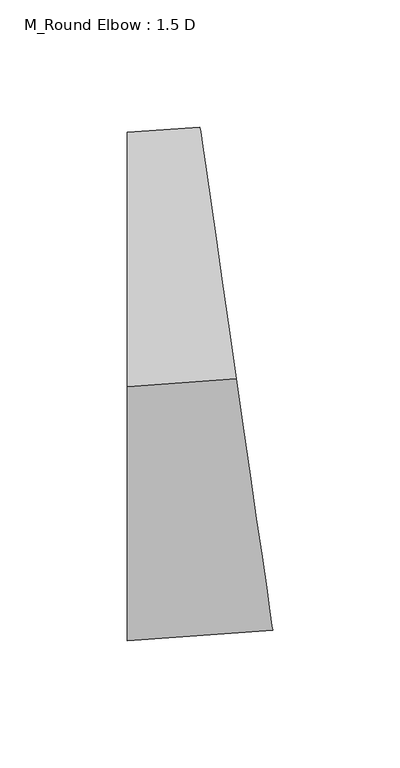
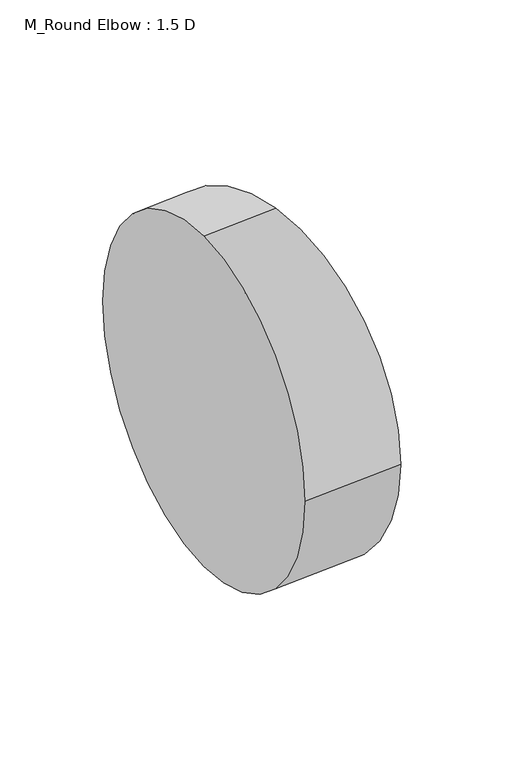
"""IFC4 building model written with IfcOpenShell, lengths in millimetres: duct fitting geometry, M_Round Elbow : 1.5 D."""

import ifcopenshell
import ifcopenshell.guid

model = None  # the IFC model being written
_history = None  # IfcOwnerHistory: only IFC2X3 demands one
_inside = {}  # id of a spatial element -> (the spatial element, [elements in it])
_under = {}  # id of a project, library or spatial element -> (it, [spatial elements below it])
_declared = {}  # id of a project -> (the project, [libraries it declares])
_typed = {}  # id of a type object -> (the type object, [elements of that type])
_made_of = {}  # id of a material, layer set ... -> (it, [elements and type objects made of it])


def new_model(schema):
    """Start an empty IFC model of exactly this schema.

    Asked for "IFC4X3", IfcOpenShell would pick the latest addendum, in which some entities
    have other attributes; the version numbers below select the first issue.
    IFC2X3 requires an IfcOwnerHistory on every rooted entity: one is made here for all.
    """
    global model, _history
    if schema == "IFC4X3":
        model = ifcopenshell.file(schema_version=(4, 3, 0, 0))
    else:
        model = ifcopenshell.file(schema=schema)
    _inside.clear()
    _under.clear()
    _declared.clear()
    _typed.clear()
    _made_of.clear()
    _history = None
    if model.schema == "IFC2X3":
        org = make("IfcOrganization", Name="unknown")
        user = make(
            "IfcPersonAndOrganization",
            ThePerson=make("IfcPerson", FamilyName="unknown"),
            TheOrganization=org,
        )
        app = make(
            "IfcApplication",
            ApplicationDeveloper=org,
            Version="unknown",
            ApplicationFullName="unknown",
            ApplicationIdentifier="unknown",
        )
        _history = make(
            "IfcOwnerHistory",
            OwningUser=user,
            OwningApplication=app,
            ChangeAction="ADDED",
            CreationDate=0,
        )
    return model


def make(cls, **values):
    """One entity of the class cls with the attributes given. An attribute that is None is left unset."""
    return model.create_entity(
        cls, **{name: value for name, value in values.items() if value is not None}
    )


def rooted(cls, **values):
    """An entity with a GlobalId (a new one), such as an element, a storey or a relation."""
    return make(cls, GlobalId=ifcopenshell.guid.new(), OwnerHistory=_history, **values)


def si_unit(unit_type, name, prefix=None):
    """IfcSIUnit, for example si_unit("LENGTHUNIT", "METRE", prefix="MILLI")."""
    return make("IfcSIUnit", UnitType=unit_type, Prefix=prefix, Name=name)


def assignment(units):
    """IfcUnitAssignment: the units of a project."""
    return None if units is None else make("IfcUnitAssignment", Units=units)


def point(xyz):
    """IfcCartesianPoint."""
    return None if xyz is None else make("IfcCartesianPoint", Coordinates=xyz)


def direction(xyz):
    """IfcDirection."""
    return None if xyz is None else make("IfcDirection", DirectionRatios=xyz)


def frame(location, z_axis=None, x_axis=None):
    """IfcAxis2Placement3D, a coordinate frame: its origin and axes. An axis left out is left unset."""
    return make(
        "IfcAxis2Placement3D",
        Location=point(location),
        Axis=direction(z_axis),
        RefDirection=direction(x_axis),
    )


def origin():
    """The frame at (0, 0, 0) with its axes left unset."""
    return frame((0.0, 0.0, 0.0))


def place(relative_to, where):
    """IfcLocalPlacement: puts the frame where relative to a parent placement (None: the world)."""
    return make(
        "IfcLocalPlacement", PlacementRelTo=relative_to, RelativePlacement=where
    )


def context(
    kind, dimensions, precision=None, world=None, true_north=None, identifier=None
):
    """IfcGeometricRepresentationContext, for example the 3D "Model" context."""
    return make(
        "IfcGeometricRepresentationContext",
        ContextIdentifier=identifier,
        ContextType=kind,
        CoordinateSpaceDimension=dimensions,
        Precision=precision,
        WorldCoordinateSystem=world,
        TrueNorth=true_north,
    )


def project(units=None, contexts=None):
    """IfcProject with its units and contexts."""
    return rooted(
        "IfcProject",
        Name="project",
        RepresentationContexts=contexts,
        UnitsInContext=assignment(units),
    )


def spatial(cls, under=None, at=None, **own):
    """A site, building, storey or space (cls), placed at a placement, below another one or the project."""
    s = rooted(cls, ObjectPlacement=at, **own)
    if under is not None:
        _under.setdefault(under.id(), (under, []))[1].append(s)
    return s


def circle_curve(where, radius):
    """IfcCircle in the frame where."""
    return make("IfcCircle", Position=where, Radius=radius)


def ellipse_curve(where, semi_axis1, semi_axis2):
    """IfcEllipse in the frame where."""
    return make(
        "IfcEllipse", Position=where, SemiAxis1=semi_axis1, SemiAxis2=semi_axis2
    )


def trimmed(basis, trim1, trim2, sense, master):
    """IfcTrimmedCurve: the piece of a basis curve between two trims."""
    return make(
        "IfcTrimmedCurve",
        BasisCurve=basis,
        Trim1=trim1,
        Trim2=trim2,
        SenseAgreement=sense,
        MasterRepresentation=master,
    )


def shape(context_of_items, identifier, shape_type, items):
    """IfcShapeRepresentation: the items that make up one representation, for example the "Body"."""
    return make(
        "IfcShapeRepresentation",
        ContextOfItems=context_of_items,
        RepresentationIdentifier=identifier,
        RepresentationType=shape_type,
        Items=items,
    )


def source(mapping_origin, context_of_items, identifier, shape_type, items):
    """IfcRepresentationMap: a shape defined once, which mapped items show again and again."""
    return make(
        "IfcRepresentationMap",
        MappingOrigin=mapping_origin,
        MappedRepresentation=shape(context_of_items, identifier, shape_type, items),
    )


def transform(
    local_origin,
    x_axis=None,
    y_axis=None,
    z_axis=None,
    scale=None,
    scale2=None,
    scale3=None,
    uniform=True,
):
    """IfcCartesianTransformationOperator3D, or its non-uniform kind. x_axis, y_axis, z_axis: its Axis1, 2, 3."""
    if uniform:
        return make(
            "IfcCartesianTransformationOperator3D",
            Axis1=direction(x_axis),
            Axis2=direction(y_axis),
            LocalOrigin=point(local_origin),
            Scale=scale,
            Axis3=direction(z_axis),
        )
    return make(
        "IfcCartesianTransformationOperator3DnonUniform",
        Axis1=direction(x_axis),
        Axis2=direction(y_axis),
        LocalOrigin=point(local_origin),
        Scale=scale,
        Axis3=direction(z_axis),
        Scale2=scale2,
        Scale3=scale3,
    )


def mapped(mapping_source, mapping_target):
    """IfcMappedItem: shows the shape of a source again, moved by a transform."""
    return make(
        "IfcMappedItem", MappingSource=mapping_source, MappingTarget=mapping_target
    )


def made_of(thing, what):
    """Note that an element or type object is made of a material, layer set ...; save() writes the relation."""
    if what is not None:
        _made_of.setdefault(what.id(), (what, []))[1].append(thing)
    return thing


def element(
    cls,
    number,
    at=None,
    inside=None,
    cuts=None,
    type_object=None,
    material=None,
    context=None,
    identifier="Body",
    shape_type=None,
    held_by="IfcProductDefinitionShape",
    body=None,
    shapes=None,
    **own,
):
    """One element of the class cls, such as IfcWall. Its Tag is "e" and its number.

    at: its placement. inside: the storey or other place that contains it. cuts: it is an
    opening in that element (IfcRelVoidsElement). A single representation is given by context,
    identifier, shape_type and body (its items); several are given by shapes. held_by: the class
    of the entity that holds the representations. save() writes the other relations.
    """
    e = rooted(cls, Tag="e%d" % number, ObjectPlacement=at, **own)
    if body is not None:
        shapes = [shape(context, identifier, shape_type, body)]
    if shapes is not None:
        e.Representation = make(held_by, Representations=shapes)
    if inside is not None:
        _inside.setdefault(inside.id(), (inside, []))[1].append(e)
    if cuts is not None:
        rooted(
            "IfcRelVoidsElement", RelatingBuildingElement=cuts, RelatedOpeningElement=e
        )
    if type_object is not None:
        _typed.setdefault(type_object.id(), (type_object, []))[1].append(e)
    return made_of(e, material)


def aggregate(whole, parts):
    """IfcRelAggregates: a whole, such as a stair, and the parts it consists of."""
    return rooted("IfcRelAggregates", RelatingObject=whole, RelatedObjects=parts)


def save(model, path):
    """Write the relations noted so far, then the file.

    IfcRelAggregates (storeys below a building ...), IfcRelContainedInSpatialStructure (elements
    in a storey), IfcRelDefinesByType, IfcRelAssociatesMaterial and IfcRelDeclares: one each for
    every whole, place, type object, material and project.
    """
    for whole, parts in _under.values():
        aggregate(whole, parts)
    for where, things in _inside.values():
        rooted(
            "IfcRelContainedInSpatialStructure",
            RelatedElements=things,
            RelatingStructure=where,
        )
    for kind, things in _typed.values():
        rooted("IfcRelDefinesByType", RelatedObjects=things, RelatingType=kind)
    for what, things in _made_of.values():
        rooted("IfcRelAssociatesMaterial", RelatedObjects=things, RelatingMaterial=what)
    for by, libraries in _declared.values():
        rooted("IfcRelDeclares", RelatingContext=by, RelatedDefinitions=libraries)
    model.write(path)


def plane_surface(at):
    """IfcPlane: the flat surface through the origin of the frame at, square to its z axis."""
    return make("IfcPlane", Position=at)


def revolved_surface(curve, axis_point, axis_direction):
    """IfcSurfaceOfRevolution: the curve turned about the line through axis_point along axis_direction."""
    return make(
        "IfcSurfaceOfRevolution",
        SweptCurve=make("IfcArbitraryOpenProfileDef", ProfileType="CURVE", Curve=curve),
        AxisPosition=make("IfcAxis1Placement", Location=point(axis_point), Axis=direction(axis_direction)),
    )


def advanced_brep(points, edges, surfaces, faces):
    """IfcAdvancedBrep: a solid bounded by faces that lie on surfaces and meet in shared edges.

    An edge is (start, end): straight between two places in points (the first is 0);
    or (start, end, curve); or (start, end, curve, False) where it runs against its curve.
    A face is (place in surfaces, loops), or (place, loops, False) where it looks against
    its surface's normal. A loop lists edges by number (the first is 1), with a minus sign
    where the edge is run from its end to its start. The first loop is the outer one.
    """
    corners = [point(p) for p in points]
    vertices = [make("IfcVertexPoint", VertexGeometry=c) for c in corners]
    made = []
    for start, end, *more in edges:
        made.append(
            make(
                "IfcEdgeCurve",
                EdgeStart=vertices[start],
                EdgeEnd=vertices[end],
                EdgeGeometry=more[0] if more else make("IfcPolyline", Points=[corners[start], corners[end]]),
                SameSense=more[1] if len(more) > 1 else True,
            )
        )
    hull = []
    for where, loops, *sense in faces:
        bounds = []
        for j, loop in enumerate(loops):
            ring = [make("IfcOrientedEdge", EdgeElement=made[abs(k) - 1], Orientation=k > 0) for k in loop]
            bounds.append(
                make(
                    "IfcFaceOuterBound" if j == 0 else "IfcFaceBound",
                    Bound=make("IfcEdgeLoop", EdgeList=ring),
                    Orientation=True,
                )
            )
        hull.append(make("IfcAdvancedFace", Bounds=bounds, FaceSurface=surfaces[where], SameSense=sense[0] if sense else True))
    return make("IfcAdvancedBrep", Outer=make("IfcClosedShell", CfsFaces=hull))


def m_round_elbow_1_5_d_c1d831fc(model_context):
    return source(origin(), model_context, "Body", "AdvancedBrep", [
        advanced_brep(
        [(-21.581663, 0.0, 100.0), (-21.581663, 100.0, 0.0), (-21.581663, 0.0, -100.0), (-21.581663, -100.0, 0.0), (21.3594342, 3.0891343, 100.0), (35.6731332, -95.8811543, 0.0), (21.3594342, 3.0891343, -100.0), (7.0457351, 102.0594229, 0.0)],
        [
            (0, 1, circle_curve(frame((-21.581663, 0.0, 0.0), z_axis=(-1.0, 0.0, 0.0), x_axis=(0.0, 1.0, 0.0)), 100.0)),
            (1, 2, circle_curve(frame((-21.581663, 0.0, 0.0), z_axis=(-1.0, 0.0, 0.0), x_axis=(0.0, 1.0, 0.0)), 100.0)),
            (2, 3, circle_curve(frame((-21.581663, 0.0, 0.0), z_axis=(-1.0, 0.0, 0.0), x_axis=(0.0, 1.0, 0.0)), 100.0)),
            (3, 0, circle_curve(frame((-21.581663, 0.0, 0.0), z_axis=(-1.0, 0.0, 0.0), x_axis=(0.0, 1.0, 0.0)), 100.0)),
            (4, 5, circle_curve(frame((21.3594342, 3.0891343, 0.0), z_axis=(0.9897028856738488, 0.14313699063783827, 0.0), x_axis=(-0.14313699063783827, 0.9897028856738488, 0.0)), 100.0)),
            (5, 6, circle_curve(frame((21.3594342, 3.0891343, 0.0), z_axis=(0.9897028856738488, 0.14313699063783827, 0.0), x_axis=(-0.14313699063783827, 0.9897028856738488, 0.0)), 100.0)),
            (6, 7, circle_curve(frame((21.3594342, 3.0891343, 0.0), z_axis=(0.9897028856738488, 0.14313699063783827, 0.0), x_axis=(-0.14313699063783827, 0.9897028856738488, 0.0)), 100.0)),
            (7, 4, circle_curve(frame((21.3594342, 3.0891343, 0.0), z_axis=(0.9897028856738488, 0.14313699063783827, 0.0), x_axis=(-0.14313699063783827, 0.9897028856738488, 0.0)), 100.0)),
            (7, 1, circle_curve(frame((-21.581663, 300.0, 0.0), z_axis=(0.0, 0.0, -1.0), x_axis=(0.0, -1.0, 0.0)), 200.0)),
            (0, 4, circle_curve(frame((-21.581663, 300.0, 100.0), z_axis=(0.0, 0.0, 1.0), x_axis=(0.0, -1.0, 0.0)), 300.0)),
            (6, 2, circle_curve(frame((-21.581663, 300.0, -100.0), z_axis=(0.0, 0.0, -1.0), x_axis=(0.0, -1.0, 0.0)), 300.0)),
            (5, 3, circle_curve(frame((-21.581663, 300.0, 0.0), z_axis=(0.0, 0.0, -1.0), x_axis=(0.0, -1.0, 0.0)), 400.0)),
        ],
        [
            plane_surface(frame((-21.581663, 0.0, 0.0), z_axis=(-1.0, 0.0, 0.0), x_axis=(0.0, 0.0, 1.0))),
            plane_surface(frame((21.3594342, 3.0891343, 0.0), z_axis=(0.9897028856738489, 0.1431369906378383, 0.0), x_axis=(0.0, 0.0, 1.0))),
            revolved_surface(trimmed(ellipse_curve(frame((-21.581663, 0.0, 0.0), z_axis=(-1.0, 0.0, 0.0), x_axis=(0.0, 1.0, 0.0)), 100.0, 100.0), [point((-21.581663, 0.0, 100.0))], [point((-21.581663, 100.0, 0.0))], True, "CARTESIAN"), (-21.581663, 300.0, 0.0), (0.0, 0.0, 1.0)),
            revolved_surface(trimmed(ellipse_curve(frame((-21.581663, 0.0, 0.0), z_axis=(-1.0, 0.0, 0.0), x_axis=(0.0, 1.0, 0.0)), 100.0, 100.0), [point((-21.581663, 100.0, 0.0))], [point((-21.581663, 0.0, -100.0))], True, "CARTESIAN"), (-21.581663, 300.0, 0.0), (0.0, 0.0, 1.0)),
            revolved_surface(trimmed(ellipse_curve(frame((-21.581663, 0.0, 0.0), z_axis=(-1.0, 0.0, 0.0), x_axis=(0.0, 1.0, 0.0)), 100.0, 100.0), [point((-21.581663, 0.0, -100.0))], [point((-21.581663, -100.0, 0.0))], True, "CARTESIAN"), (-21.581663, 300.0, 0.0), (0.0, 0.0, 1.0)),
            revolved_surface(trimmed(ellipse_curve(frame((-21.581663, 0.0, 0.0), z_axis=(-1.0, 0.0, 0.0), x_axis=(0.0, 1.0, 0.0)), 100.0, 100.0), [point((-21.581663, -100.0, 0.0))], [point((-21.581663, 0.0, 100.0))], True, "CARTESIAN"), (-21.581663, 300.0, 0.0), (0.0, 0.0, 1.0)),
        ],
        [
            (0, [[1, 2, 3, 4]]),
            (1, [[5, 6, 7, 8]]),
            (2, [[9, -1, 10, -8]]),
            (3, [[11, -2, -9, -7]]),
            (4, [[12, -3, -11, -6]]),
            (5, [[-10, -4, -12, -5]]),
        ],
    ),
        advanced_brep(
        [(-21.581663, 0.0, 100.0), (-21.581663, 100.0, 0.0), (-21.581663, 0.0, -100.0), (-21.581663, -100.0, 0.0), (21.3594342, 3.0891343, 100.0), (35.6731332, -95.8811543, 0.0), (21.3594342, 3.0891343, -100.0), (7.0457351, 102.0594229, 0.0)],
        [
            (0, 1, circle_curve(frame((-21.581663, 0.0, 0.0), z_axis=(-1.0, 0.0, 0.0), x_axis=(0.0, 1.0, 0.0)), 100.0)),
            (1, 2, circle_curve(frame((-21.581663, 0.0, 0.0), z_axis=(-1.0, 0.0, 0.0), x_axis=(0.0, 1.0, 0.0)), 100.0)),
            (2, 3, circle_curve(frame((-21.581663, 0.0, 0.0), z_axis=(-1.0, 0.0, 0.0), x_axis=(0.0, 1.0, 0.0)), 100.0)),
            (3, 0, circle_curve(frame((-21.581663, 0.0, 0.0), z_axis=(-1.0, 0.0, 0.0), x_axis=(0.0, 1.0, 0.0)), 100.0)),
            (4, 5, circle_curve(frame((21.3594342, 3.0891343, 0.0), z_axis=(0.9897028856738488, 0.14313699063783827, 0.0), x_axis=(-0.14313699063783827, 0.9897028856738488, 0.0)), 100.0)),
            (5, 6, circle_curve(frame((21.3594342, 3.0891343, 0.0), z_axis=(0.9897028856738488, 0.14313699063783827, 0.0), x_axis=(-0.14313699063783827, 0.9897028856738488, 0.0)), 100.0)),
            (6, 7, circle_curve(frame((21.3594342, 3.0891343, 0.0), z_axis=(0.9897028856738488, 0.14313699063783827, 0.0), x_axis=(-0.14313699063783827, 0.9897028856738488, 0.0)), 100.0)),
            (7, 4, circle_curve(frame((21.3594342, 3.0891343, 0.0), z_axis=(0.9897028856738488, 0.14313699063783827, 0.0), x_axis=(-0.14313699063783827, 0.9897028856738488, 0.0)), 100.0)),
            (7, 1, circle_curve(frame((-21.581663, 300.0, 0.0), z_axis=(0.0, 0.0, -1.0), x_axis=(0.0, -1.0, 0.0)), 200.0)),
            (0, 4, circle_curve(frame((-21.581663, 300.0, 100.0), z_axis=(0.0, 0.0, 1.0), x_axis=(0.0, -1.0, 0.0)), 300.0)),
            (6, 2, circle_curve(frame((-21.581663, 300.0, -100.0), z_axis=(0.0, 0.0, -1.0), x_axis=(0.0, -1.0, 0.0)), 300.0)),
            (5, 3, circle_curve(frame((-21.581663, 300.0, 0.0), z_axis=(0.0, 0.0, -1.0), x_axis=(0.0, -1.0, 0.0)), 400.0)),
        ],
        [
            plane_surface(frame((-21.581663, 0.0, 0.0), z_axis=(-1.0, 0.0, 0.0), x_axis=(0.0, 0.0, 1.0))),
            plane_surface(frame((21.3594342, 3.0891343, 0.0), z_axis=(0.9897028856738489, 0.1431369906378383, 0.0), x_axis=(0.0, 0.0, 1.0))),
            revolved_surface(trimmed(ellipse_curve(frame((-21.581663, 0.0, 0.0), z_axis=(-1.0, 0.0, 0.0), x_axis=(0.0, 1.0, 0.0)), 100.0, 100.0), [point((-21.581663, 0.0, 100.0))], [point((-21.581663, 100.0, 0.0))], True, "CARTESIAN"), (-21.581663, 300.0, 0.0), (0.0, 0.0, 1.0)),
            revolved_surface(trimmed(ellipse_curve(frame((-21.581663, 0.0, 0.0), z_axis=(-1.0, 0.0, 0.0), x_axis=(0.0, 1.0, 0.0)), 100.0, 100.0), [point((-21.581663, 100.0, 0.0))], [point((-21.581663, 0.0, -100.0))], True, "CARTESIAN"), (-21.581663, 300.0, 0.0), (0.0, 0.0, 1.0)),
            revolved_surface(trimmed(ellipse_curve(frame((-21.581663, 0.0, 0.0), z_axis=(-1.0, 0.0, 0.0), x_axis=(0.0, 1.0, 0.0)), 100.0, 100.0), [point((-21.581663, 0.0, -100.0))], [point((-21.581663, -100.0, 0.0))], True, "CARTESIAN"), (-21.581663, 300.0, 0.0), (0.0, 0.0, 1.0)),
            revolved_surface(trimmed(ellipse_curve(frame((-21.581663, 0.0, 0.0), z_axis=(-1.0, 0.0, 0.0), x_axis=(0.0, 1.0, 0.0)), 100.0, 100.0), [point((-21.581663, -100.0, 0.0))], [point((-21.581663, 0.0, 100.0))], True, "CARTESIAN"), (-21.581663, 300.0, 0.0), (0.0, 0.0, 1.0)),
        ],
        [
            (0, [[1, 2, 3, 4]]),
            (1, [[5, 6, 7, 8]]),
            (2, [[9, -1, 10, -8]]),
            (3, [[11, -2, -9, -7]]),
            (4, [[12, -3, -11, -6]]),
            (5, [[-10, -4, -12, -5]]),
        ],
    ),
        advanced_brep(
        [(-21.581663, 0.0, 100.0), (-21.581663, 100.0, 0.0), (-21.581663, 0.0, -100.0), (-21.581663, -100.0, 0.0), (21.3594342, 3.0891343, 100.0), (35.6731332, -95.8811543, 0.0), (21.3594342, 3.0891343, -100.0), (7.0457351, 102.0594229, 0.0)],
        [
            (0, 1, circle_curve(frame((-21.581663, 0.0, 0.0), z_axis=(-1.0, 0.0, 0.0), x_axis=(0.0, 1.0, 0.0)), 100.0)),
            (1, 2, circle_curve(frame((-21.581663, 0.0, 0.0), z_axis=(-1.0, 0.0, 0.0), x_axis=(0.0, 1.0, 0.0)), 100.0)),
            (2, 3, circle_curve(frame((-21.581663, 0.0, 0.0), z_axis=(-1.0, 0.0, 0.0), x_axis=(0.0, 1.0, 0.0)), 100.0)),
            (3, 0, circle_curve(frame((-21.581663, 0.0, 0.0), z_axis=(-1.0, 0.0, 0.0), x_axis=(0.0, 1.0, 0.0)), 100.0)),
            (4, 5, circle_curve(frame((21.3594342, 3.0891343, 0.0), z_axis=(0.9897028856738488, 0.14313699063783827, 0.0), x_axis=(-0.14313699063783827, 0.9897028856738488, 0.0)), 100.0)),
            (5, 6, circle_curve(frame((21.3594342, 3.0891343, 0.0), z_axis=(0.9897028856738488, 0.14313699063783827, 0.0), x_axis=(-0.14313699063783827, 0.9897028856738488, 0.0)), 100.0)),
            (6, 7, circle_curve(frame((21.3594342, 3.0891343, 0.0), z_axis=(0.9897028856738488, 0.14313699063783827, 0.0), x_axis=(-0.14313699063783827, 0.9897028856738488, 0.0)), 100.0)),
            (7, 4, circle_curve(frame((21.3594342, 3.0891343, 0.0), z_axis=(0.9897028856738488, 0.14313699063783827, 0.0), x_axis=(-0.14313699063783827, 0.9897028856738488, 0.0)), 100.0)),
            (7, 1, circle_curve(frame((-21.581663, 300.0, 0.0), z_axis=(0.0, 0.0, -1.0), x_axis=(0.0, -1.0, 0.0)), 200.0)),
            (0, 4, circle_curve(frame((-21.581663, 300.0, 100.0), z_axis=(0.0, 0.0, 1.0), x_axis=(0.0, -1.0, 0.0)), 300.0)),
            (6, 2, circle_curve(frame((-21.581663, 300.0, -100.0), z_axis=(0.0, 0.0, -1.0), x_axis=(0.0, -1.0, 0.0)), 300.0)),
            (5, 3, circle_curve(frame((-21.581663, 300.0, 0.0), z_axis=(0.0, 0.0, -1.0), x_axis=(0.0, -1.0, 0.0)), 400.0)),
        ],
        [
            plane_surface(frame((-21.581663, 0.0, 0.0), z_axis=(-1.0, 0.0, 0.0), x_axis=(0.0, 0.0, 1.0))),
            plane_surface(frame((21.3594342, 3.0891343, 0.0), z_axis=(0.9897028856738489, 0.1431369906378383, 0.0), x_axis=(0.0, 0.0, 1.0))),
            revolved_surface(trimmed(ellipse_curve(frame((-21.581663, 0.0, 0.0), z_axis=(-1.0, 0.0, 0.0), x_axis=(0.0, 1.0, 0.0)), 100.0, 100.0), [point((-21.581663, 0.0, 100.0))], [point((-21.581663, 100.0, 0.0))], True, "CARTESIAN"), (-21.581663, 300.0, 0.0), (0.0, 0.0, 1.0)),
            revolved_surface(trimmed(ellipse_curve(frame((-21.581663, 0.0, 0.0), z_axis=(-1.0, 0.0, 0.0), x_axis=(0.0, 1.0, 0.0)), 100.0, 100.0), [point((-21.581663, 100.0, 0.0))], [point((-21.581663, 0.0, -100.0))], True, "CARTESIAN"), (-21.581663, 300.0, 0.0), (0.0, 0.0, 1.0)),
            revolved_surface(trimmed(ellipse_curve(frame((-21.581663, 0.0, 0.0), z_axis=(-1.0, 0.0, 0.0), x_axis=(0.0, 1.0, 0.0)), 100.0, 100.0), [point((-21.581663, 0.0, -100.0))], [point((-21.581663, -100.0, 0.0))], True, "CARTESIAN"), (-21.581663, 300.0, 0.0), (0.0, 0.0, 1.0)),
            revolved_surface(trimmed(ellipse_curve(frame((-21.581663, 0.0, 0.0), z_axis=(-1.0, 0.0, 0.0), x_axis=(0.0, 1.0, 0.0)), 100.0, 100.0), [point((-21.581663, -100.0, 0.0))], [point((-21.581663, 0.0, 100.0))], True, "CARTESIAN"), (-21.581663, 300.0, 0.0), (0.0, 0.0, 1.0)),
        ],
        [
            (0, [[1, 2, 3, 4]]),
            (1, [[5, 6, 7, 8]]),
            (2, [[9, -1, 10, -8]]),
            (3, [[11, -2, -9, -7]]),
            (4, [[12, -3, -11, -6]]),
            (5, [[-10, -4, -12, -5]]),
        ],
    ),
    ])


if __name__ == "__main__":
    model = new_model("IFC4")
    model_context = context("Model", 3, world=origin())
    ifc_project = project(units=[si_unit("LENGTHUNIT", "METRE", prefix="MILLI")], contexts=[model_context])
    site = spatial("IfcSite", under=ifc_project)
    building = spatial("IfcBuilding", under=site)
    placement = place(None, origin())
    m_round_elbow_1_5_d_shape = m_round_elbow_1_5_d_c1d831fc(model_context)
    element("IfcDuctFitting", 1, ObjectType="M_Round Elbow : 1.5 D", at=placement, inside=building, context=model_context, shape_type="MappedRepresentation", body=[
        mapped(m_round_elbow_1_5_d_shape, transform((0.0, 0.0, 0.0), x_axis=(1.0, 0.0, 0.0), y_axis=(0.0, 1.0, 0.0), z_axis=(0.0, 0.0, 1.0))),
    ])
    save(model, "model.ifc")
